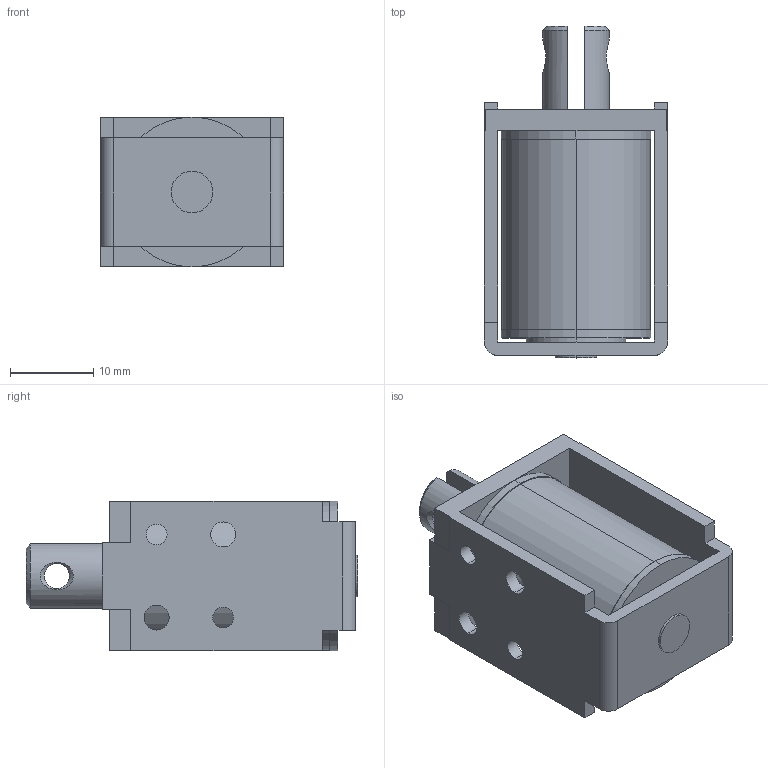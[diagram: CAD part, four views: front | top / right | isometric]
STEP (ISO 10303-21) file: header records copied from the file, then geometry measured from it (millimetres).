
FILE_DESCRIPTION (( 'STEP AP203' ), '1' );
FILE_NAME ('w_ce0830.STEP', '2014-07-24T01:56:37', ( 'jiba' ), ( 'Hewlett-Packard Company' ), 'SwSTEP 2.0', 'SolidWorks 2014', '' );
FILE_SCHEMA (( 'CONFIG_CONTROL_DESIGN' ));
Length unit declared in the file: millimetre
Products named in the file (3): Part4^w_ce0830; w_20830036; w_ce0830
Assembly tree (2 placements, depth 2):
  w_ce0830
    Part4^w_ce0830
    w_20830036
Bounding box: 22 x 39.9 x 18 mm (x, y, z)
Volume: 9391.3 mm3; surface area: 6405.1 mm2
Topology: 2 solids, 2 shells, 92 faces, 240 edges, 158 vertices
Faces by surface type: plane 48, cylinder 36, cone 8
Entity records: 3297 total; most frequent: CARTESIAN_POINT 631, DIRECTION 510, ORIENTED_EDGE 480, EDGE_CURVE 240, AXIS2_PLACEMENT_3D 181, VERTEX_POINT 158, VECTOR 148, LINE 148
